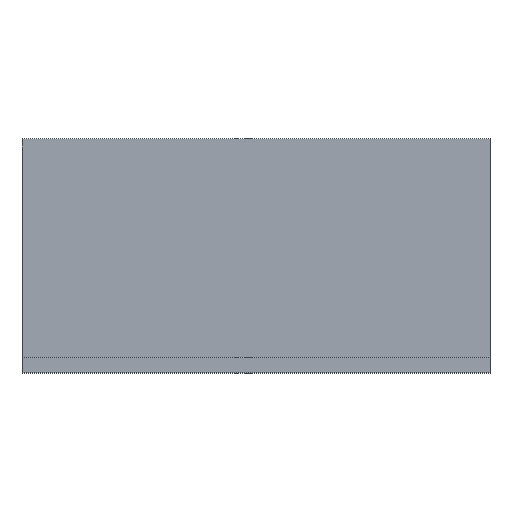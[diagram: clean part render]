
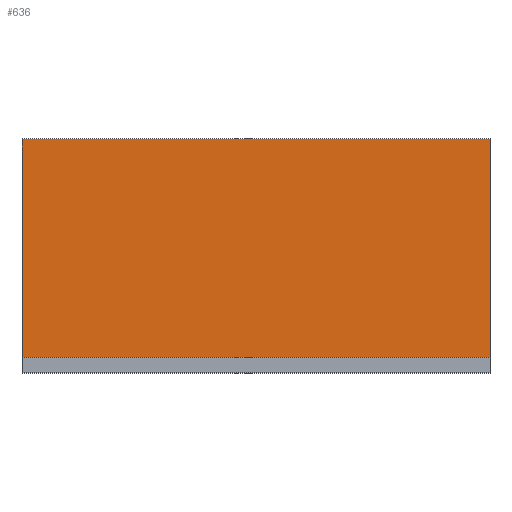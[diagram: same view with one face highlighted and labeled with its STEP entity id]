
A CAD part, top view. The second image highlights one B-rep face of the part: STEP entity #636.
In plain terms, the highlighted planar face has unit normal (0, 0, 1).
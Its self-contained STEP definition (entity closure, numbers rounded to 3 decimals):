
#85 = VERTEX_POINT('',#86);
#86 = CARTESIAN_POINT('',(0.,2.,2.));
#100 = PLANE('',#101);
#101 = AXIS2_PLACEMENT_3D('',#102,#103,#104);
#102 = CARTESIAN_POINT('',(0.,0.,0.));
#103 = DIRECTION('',(1.,0.,0.));
#104 = DIRECTION('',(0.,0.,1.));
#262 = PLANE('',#263);
#263 = AXIS2_PLACEMENT_3D('',#264,#265,#266);
#264 = CARTESIAN_POINT('',(0.,2.,0.));
#265 = DIRECTION('',(0.,1.,0.));
#266 = DIRECTION('',(0.,0.,1.));
#333 = VERTEX_POINT('',#334);
#334 = CARTESIAN_POINT('',(0.,30.,2.));
#348 = PLANE('',#349);
#349 = AXIS2_PLACEMENT_3D('',#350,#351,#352);
#350 = CARTESIAN_POINT('',(0.,30.,0.));
#351 = DIRECTION('',(0.,1.,0.));
#352 = DIRECTION('',(0.,0.,1.));
#360 = EDGE_CURVE('',#85,#333,#361,.T.);
#361 = SURFACE_CURVE('',#362,(#366,#373),.PCURVE_S1.);
#362 = LINE('',#363,#364);
#363 = CARTESIAN_POINT('',(0.,0.,2.));
#364 = VECTOR('',#365,1.);
#365 = DIRECTION('',(0.,1.,0.));
#366 = PCURVE('',#100,#367);
#367 = DEFINITIONAL_REPRESENTATION('',(#368),#372);
#368 = LINE('',#369,#370);
#369 = CARTESIAN_POINT('',(2.,0.));
#370 = VECTOR('',#371,1.);
#371 = DIRECTION('',(0.,-1.));
#372 = ( GEOMETRIC_REPRESENTATION_CONTEXT(2) 
PARAMETRIC_REPRESENTATION_CONTEXT() REPRESENTATION_CONTEXT('2D SPACE',''
  ) );
#373 = PCURVE('',#374,#379);
#374 = PLANE('',#375);
#375 = AXIS2_PLACEMENT_3D('',#376,#377,#378);
#376 = CARTESIAN_POINT('',(0.,0.,2.));
#377 = DIRECTION('',(0.,0.,1.));
#378 = DIRECTION('',(1.,0.,0.));
#379 = DEFINITIONAL_REPRESENTATION('',(#380),#384);
#380 = LINE('',#381,#382);
#381 = CARTESIAN_POINT('',(0.,0.));
#382 = VECTOR('',#383,1.);
#383 = DIRECTION('',(0.,1.));
#384 = ( GEOMETRIC_REPRESENTATION_CONTEXT(2) 
PARAMETRIC_REPRESENTATION_CONTEXT() REPRESENTATION_CONTEXT('2D SPACE',''
  ) );
#441 = VERTEX_POINT('',#442);
#442 = CARTESIAN_POINT('',(60.,2.,2.));
#456 = PLANE('',#457);
#457 = AXIS2_PLACEMENT_3D('',#458,#459,#460);
#458 = CARTESIAN_POINT('',(60.,0.,0.));
#459 = DIRECTION('',(1.,0.,0.));
#460 = DIRECTION('',(0.,0.,1.));
#616 = EDGE_CURVE('',#85,#441,#617,.T.);
#617 = SURFACE_CURVE('',#618,(#622,#628),.PCURVE_S1.);
#618 = LINE('',#619,#620);
#619 = CARTESIAN_POINT('',(0.,2.,2.));
#620 = VECTOR('',#621,1.);
#621 = DIRECTION('',(1.,0.,0.));
#622 = PCURVE('',#262,#623);
#623 = DEFINITIONAL_REPRESENTATION('',(#624),#627);
#624 = B_SPLINE_CURVE_WITH_KNOTS('',1,(#625,#626),.UNSPECIFIED.,.F.,.F.,
  (2,2),(0.,60.),.PIECEWISE_BEZIER_KNOTS.);
#625 = CARTESIAN_POINT('',(2.,0.));
#626 = CARTESIAN_POINT('',(2.,60.));
#627 = ( GEOMETRIC_REPRESENTATION_CONTEXT(2) 
PARAMETRIC_REPRESENTATION_CONTEXT() REPRESENTATION_CONTEXT('2D SPACE',''
  ) );
#628 = PCURVE('',#374,#629);
#629 = DEFINITIONAL_REPRESENTATION('',(#630),#633);
#630 = B_SPLINE_CURVE_WITH_KNOTS('',1,(#631,#632),.UNSPECIFIED.,.F.,.F.,
  (2,2),(0.,60.),.PIECEWISE_BEZIER_KNOTS.);
#631 = CARTESIAN_POINT('',(0.,2.));
#632 = CARTESIAN_POINT('',(60.,2.));
#633 = ( GEOMETRIC_REPRESENTATION_CONTEXT(2) 
PARAMETRIC_REPRESENTATION_CONTEXT() REPRESENTATION_CONTEXT('2D SPACE',''
  ) );
#636 = ADVANCED_FACE('',(#637),#374,.T.);
#637 = FACE_BOUND('',#638,.T.);
#638 = EDGE_LOOP('',(#639,#640,#641,#664));
#639 = ORIENTED_EDGE('',*,*,#360,.F.);
#640 = ORIENTED_EDGE('',*,*,#616,.T.);
#641 = ORIENTED_EDGE('',*,*,#642,.T.);
#642 = EDGE_CURVE('',#441,#643,#645,.T.);
#643 = VERTEX_POINT('',#644);
#644 = CARTESIAN_POINT('',(60.,30.,2.));
#645 = SURFACE_CURVE('',#646,(#650,#657),.PCURVE_S1.);
#646 = LINE('',#647,#648);
#647 = CARTESIAN_POINT('',(60.,0.,2.));
#648 = VECTOR('',#649,1.);
#649 = DIRECTION('',(0.,1.,0.));
#650 = PCURVE('',#374,#651);
#651 = DEFINITIONAL_REPRESENTATION('',(#652),#656);
#652 = LINE('',#653,#654);
#653 = CARTESIAN_POINT('',(60.,0.));
#654 = VECTOR('',#655,1.);
#655 = DIRECTION('',(0.,1.));
#656 = ( GEOMETRIC_REPRESENTATION_CONTEXT(2) 
PARAMETRIC_REPRESENTATION_CONTEXT() REPRESENTATION_CONTEXT('2D SPACE',''
  ) );
#657 = PCURVE('',#456,#658);
#658 = DEFINITIONAL_REPRESENTATION('',(#659),#663);
#659 = LINE('',#660,#661);
#660 = CARTESIAN_POINT('',(2.,0.));
#661 = VECTOR('',#662,1.);
#662 = DIRECTION('',(0.,-1.));
#663 = ( GEOMETRIC_REPRESENTATION_CONTEXT(2) 
PARAMETRIC_REPRESENTATION_CONTEXT() REPRESENTATION_CONTEXT('2D SPACE',''
  ) );
#664 = ORIENTED_EDGE('',*,*,#665,.F.);
#665 = EDGE_CURVE('',#333,#643,#666,.T.);
#666 = SURFACE_CURVE('',#667,(#671,#678),.PCURVE_S1.);
#667 = LINE('',#668,#669);
#668 = CARTESIAN_POINT('',(0.,30.,2.));
#669 = VECTOR('',#670,1.);
#670 = DIRECTION('',(1.,0.,0.));
#671 = PCURVE('',#374,#672);
#672 = DEFINITIONAL_REPRESENTATION('',(#673),#677);
#673 = LINE('',#674,#675);
#674 = CARTESIAN_POINT('',(0.,30.));
#675 = VECTOR('',#676,1.);
#676 = DIRECTION('',(1.,0.));
#677 = ( GEOMETRIC_REPRESENTATION_CONTEXT(2) 
PARAMETRIC_REPRESENTATION_CONTEXT() REPRESENTATION_CONTEXT('2D SPACE',''
  ) );
#678 = PCURVE('',#348,#679);
#679 = DEFINITIONAL_REPRESENTATION('',(#680),#684);
#680 = LINE('',#681,#682);
#681 = CARTESIAN_POINT('',(2.,0.));
#682 = VECTOR('',#683,1.);
#683 = DIRECTION('',(0.,1.));
#684 = ( GEOMETRIC_REPRESENTATION_CONTEXT(2) 
PARAMETRIC_REPRESENTATION_CONTEXT() REPRESENTATION_CONTEXT('2D SPACE',''
  ) );
